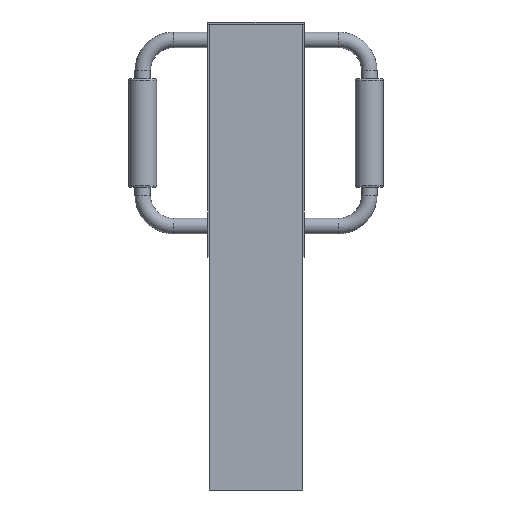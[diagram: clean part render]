
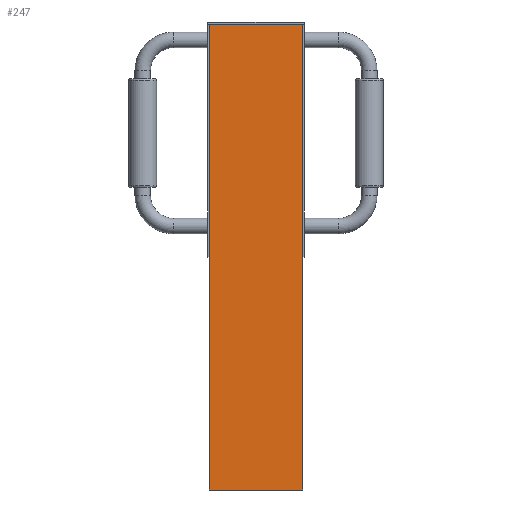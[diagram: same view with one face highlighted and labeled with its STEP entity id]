
A CAD part, front view. The second image highlights one B-rep face of the part: STEP entity #247.
In plain terms, the highlighted planar face has unit normal (0, -1, 0).
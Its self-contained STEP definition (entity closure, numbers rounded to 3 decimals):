
#171 = EDGE_CURVE('',#172,#174,#176,.T.);
#172 = VERTEX_POINT('',#173);
#173 = CARTESIAN_POINT('',(-60.,-10.,0.));
#174 = VERTEX_POINT('',#175);
#175 = CARTESIAN_POINT('',(-60.,-10.,600.));
#176 = LINE('',#177,#178);
#177 = CARTESIAN_POINT('',(-60.,-10.,0.));
#178 = VECTOR('',#179,1.);
#179 = DIRECTION('',(0.,0.,1.));
#211 = EDGE_CURVE('',#212,#214,#216,.T.);
#212 = VERTEX_POINT('',#213);
#213 = CARTESIAN_POINT('',(60.,-10.,0.));
#214 = VERTEX_POINT('',#215);
#215 = CARTESIAN_POINT('',(60.,-10.,600.));
#216 = LINE('',#217,#218);
#217 = CARTESIAN_POINT('',(60.,-10.,0.));
#218 = VECTOR('',#219,1.);
#219 = DIRECTION('',(0.,0.,1.));
#247 = ADVANCED_FACE('',(#248),#264,.F.);
#248 = FACE_BOUND('',#249,.F.);
#249 = EDGE_LOOP('',(#250,#256,#257,#263));
#250 = ORIENTED_EDGE('',*,*,#251,.F.);
#251 = EDGE_CURVE('',#172,#212,#252,.T.);
#252 = LINE('',#253,#254);
#253 = CARTESIAN_POINT('',(-60.,-10.,0.));
#254 = VECTOR('',#255,1.);
#255 = DIRECTION('',(1.,0.,-0.));
#256 = ORIENTED_EDGE('',*,*,#171,.T.);
#257 = ORIENTED_EDGE('',*,*,#258,.T.);
#258 = EDGE_CURVE('',#174,#214,#259,.T.);
#259 = LINE('',#260,#261);
#260 = CARTESIAN_POINT('',(-60.,-10.,600.));
#261 = VECTOR('',#262,1.);
#262 = DIRECTION('',(1.,0.,-0.));
#263 = ORIENTED_EDGE('',*,*,#211,.F.);
#264 = PLANE('',#265);
#265 = AXIS2_PLACEMENT_3D('',#266,#267,#268);
#266 = CARTESIAN_POINT('',(-60.,-10.,0.));
#267 = DIRECTION('',(-0.,1.,0.));
#268 = DIRECTION('',(0.,0.,1.));
